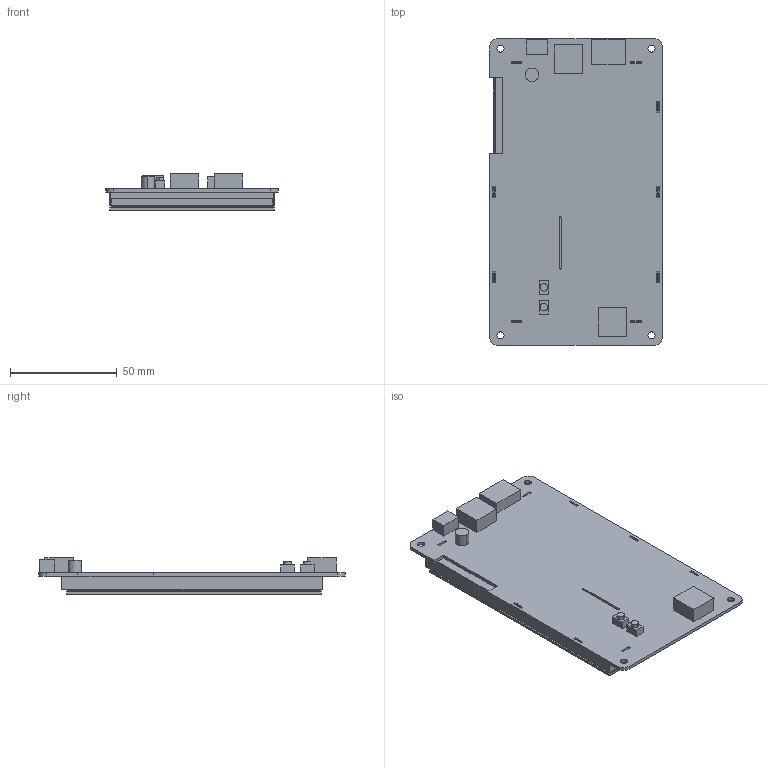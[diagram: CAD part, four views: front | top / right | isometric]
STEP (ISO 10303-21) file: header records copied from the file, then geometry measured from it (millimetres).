
FILE_DESCRIPTION((''),'2;1');
FILE_NAME('HDW050-003L','2022-04-14T',('Administrator'),(''),'PRO/ENGINEER BY PARAMETRIC TECHNOLOGY CORPORATION, 2011310','PRO/ENGINEER BY PARAMETRIC TECHNOLOGY CORPORATION, 2011310','');
FILE_SCHEMA(('CONFIG_CONTROL_DESIGN','SHAPE_APPEARANCE_LAYERS_GROUPS'));
Length unit declared in the file: millimetre
Products named in the file (1): HDW050-003L
Bounding box: 80.9 x 143.51 x 17.12 mm (x, y, z)
Volume: 67304.1 mm3; surface area: 66708.4 mm2
Topology: 1 solids, 1 shells, 199 faces, 572 edges, 368 vertices
Faces by surface type: plane 179, cylinder 20
Entity records: 7439 total; most frequent: ORIENTED_EDGE 1144, CARTESIAN_POINT 1139, DIRECTION 1010, EDGE_CURVE 572, VECTOR 532, LINE 532, VERTEX_POINT 368, EDGE_LOOP 240
